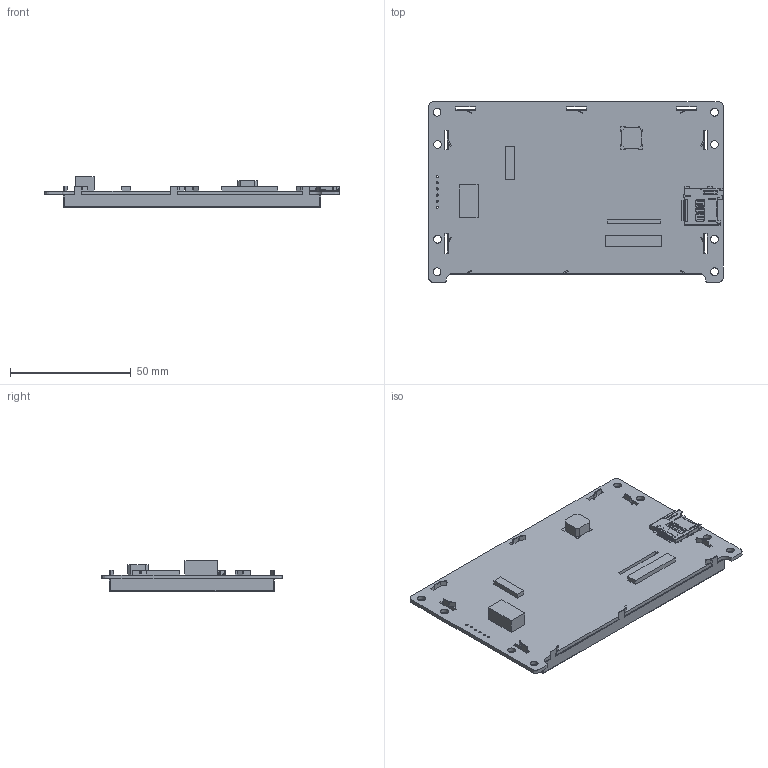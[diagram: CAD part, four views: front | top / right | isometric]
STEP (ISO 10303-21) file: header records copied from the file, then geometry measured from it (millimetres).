
FILE_DESCRIPTION(/* description */ (''),/* implementation_level */ '2;1');
FILE_NAME(/* name */ '',/* time_stamp */ '2023-10-19T15:20:07+08:00',/* author */ (''),/* organization */ (''),/* preprocessor_version */ 'ST-DEVELOPER v11',/* originating_system */ 'SIEMENS PLM Software NX 7.5',/* authorisation */ '');
FILE_SCHEMA (('AP203_CONFIGURATION_CONTROLLED_3D_DESIGN_OF_MECHANICAL_PARTS_AND_ASSEMBLIES_MIM_LF'));
Length unit declared in the file: millimetre
Products named in the file (1): SDWn043C33N
Bounding box: 121.9 x 74.7 x 12.8 mm (x, y, z)
Volume: 43441.2 mm3; surface area: 43226.5 mm2
Topology: 12 solids, 12 shells, 1141 faces, 3252 edges, 2111 vertices
Faces by surface type: plane 859, cylinder 280, cone 1, extrusion 1
Full cylindrical faces by diameter (mm): 0.889 x6, 3.2 x8
Entity records: 37462 total; most frequent: CARTESIAN_POINT 6850, ORIENTED_EDGE 6474, DIRECTION 6012, EDGE_CURVE 3237, VECTOR 2598, LINE 2597, VERTEX_POINT 2111, AXIS2_PLACEMENT_3D 1707
